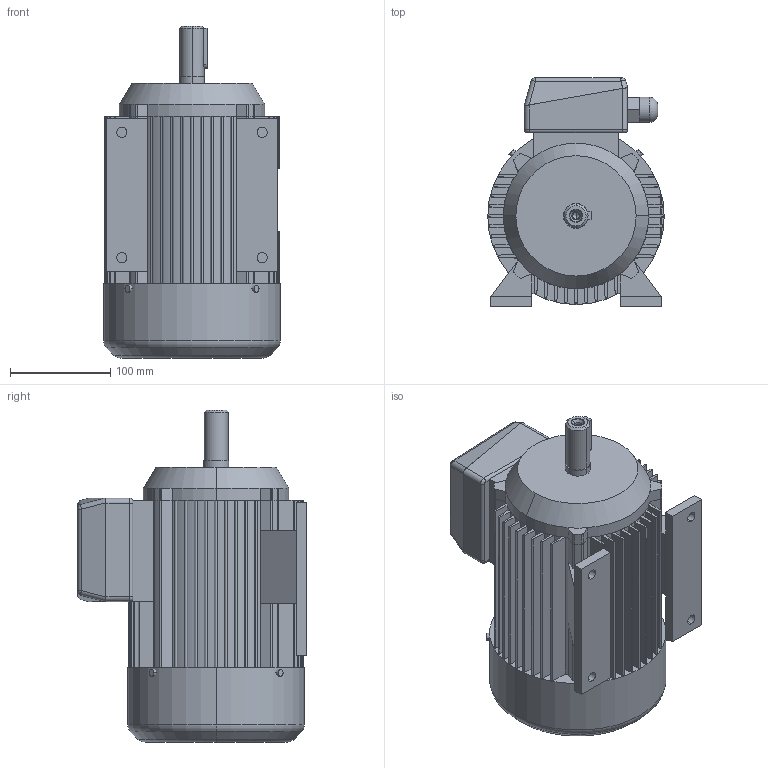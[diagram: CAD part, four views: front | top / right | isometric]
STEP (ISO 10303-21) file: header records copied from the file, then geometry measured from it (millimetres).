
FILE_DESCRIPTION (( 'STEP AP203' ), '1' );
FILE_NAME ('2SIE90L2.STEP', '2012-10-26T11:51:06', ( 'INDUKTA' ), ( 'CANTONI MOTOR' ), 'SwSTEP 2.0', 'SolidWorks 2003064', '' );
FILE_SCHEMA (( 'CONFIG_CONTROL_DESIGN' ));
Length unit declared in the file: millimetre
Products named in the file (1): 2SIE90L2
Bounding box: 176 x 228 x 331 mm (x, y, z)
Volume: 6303799.1 mm3; surface area: 512712.1 mm2
Topology: 13 solids, 13 shells, 387 faces, 1017 edges, 652 vertices
Faces by surface type: plane 185, cylinder 174, cone 14, torus 10, sphere 4
Entity records: 12022 total; most frequent: DIRECTION 2162, CARTESIAN_POINT 2112, ORIENTED_EDGE 2022, EDGE_CURVE 1011, AXIS2_PLACEMENT_3D 774, VERTEX_POINT 652, LINE 614, VECTOR 614
